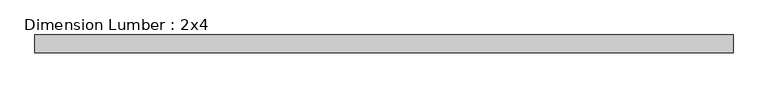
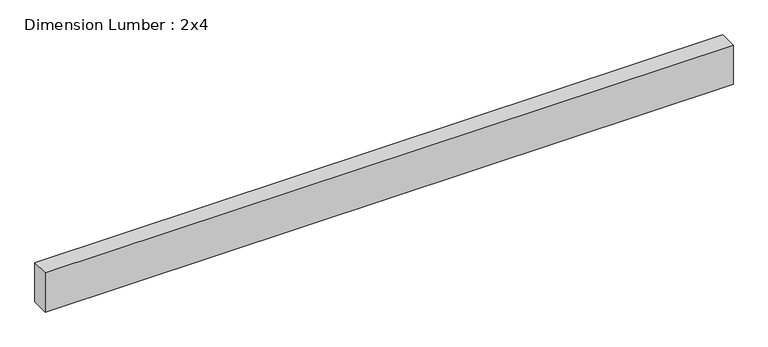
"""IFC4 building model written with IfcOpenShell, lengths in millimetres: beam geometry, Dimension Lumber : 2x4."""

from ifc_helpers import new_model, si_unit, frame, origin, place, context, project, spatial, polyline, outline, extrude, source, transform, mapped, element, save


def dimension_lumber_2x4_5942484f(model_context):
    return source(origin(), model_context, "Body", "SweptSolid", [
        extrude(outline(polyline([(739.3779134, 19.05), (739.3779134, -19.05), (-739.3779134, -19.05), (-739.3779134, 19.05), (739.3779134, 19.05)])), frame((0.0, 0.0, -44.45), z_axis=(0.0, 0.0, 1.0), x_axis=(1.0, 0.0, 0.0)), (0.0, 0.0, 1.0), 88.9),
    ])


if __name__ == "__main__":
    model = new_model("IFC4")
    model_context = context("Model", 3, world=origin())
    ifc_project = project(units=[si_unit("LENGTHUNIT", "METRE", prefix="MILLI")], contexts=[model_context])
    site = spatial("IfcSite", under=ifc_project)
    building = spatial("IfcBuilding", under=site)
    placement = place(None, origin())
    dimension_lumber_2x4_shape = dimension_lumber_2x4_5942484f(model_context)
    element("IfcBeam", 1, ObjectType="Dimension Lumber : 2x4", at=placement, inside=building, context=model_context, shape_type="MappedRepresentation", body=[
        mapped(dimension_lumber_2x4_shape, transform((0.0, 0.0, 0.0), x_axis=(1.0, 0.0, 0.0), y_axis=(0.0, 1.0, 0.0), z_axis=(0.0, 0.0, 1.0))),
    ])
    save(model, "model.ifc")
